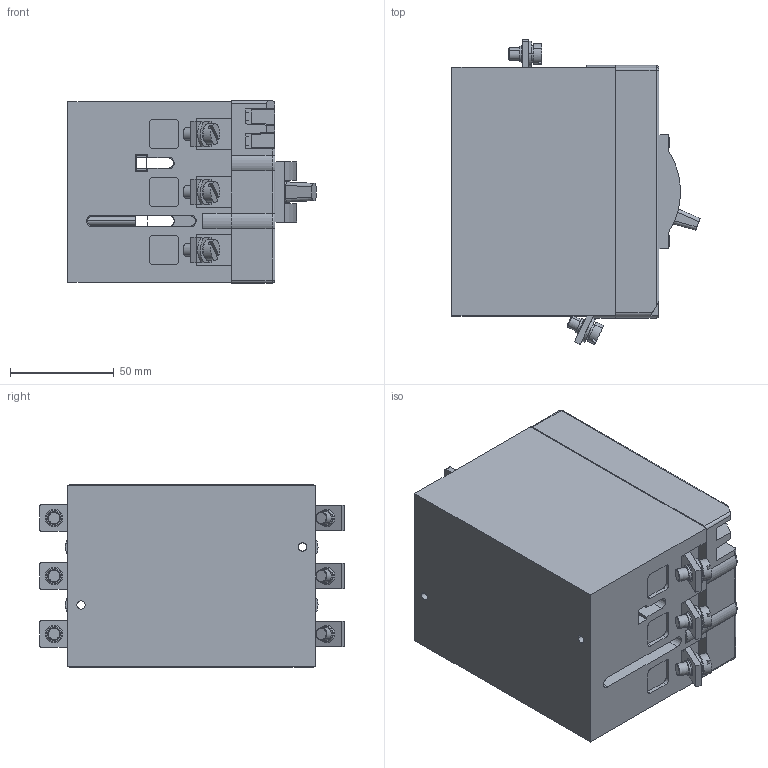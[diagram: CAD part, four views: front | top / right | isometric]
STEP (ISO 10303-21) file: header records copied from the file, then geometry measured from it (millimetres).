
FILE_DESCRIPTION (( 'STEP AP214' ), '1' );
FILE_NAME ('Àâòîìàòè÷åñêèé âûêëþ÷àòåëü ÂÀ21-3.STEP', '2013-12-18T10:51:12', ( 'www.PHILka.RU' ), ( 'WareZ Provider ' ), 'SwSTEP 2.0', 'SolidWorks 2007', '' );
FILE_SCHEMA (( 'AUTOMOTIVE_DESIGN' ));
Length unit declared in the file: millimetre
Products named in the file (1): Àâòîìàòè÷åñêèé âûêëþ÷àòåëü ÂÀ21-3
Bounding box: 119.82 x 147.25 x 88 mm (x, y, z)
Surface area: 96094 mm2 (no closed solid volume)
Topology: 0 solids, 36 shells, 422 faces, 1287 edges, 897 vertices
Faces by surface type: plane 215, cylinder 157, cone 21, torus 18, bspline 8, sphere 3
Entity records: 19495 total; most frequent: CARTESIAN_POINT 3230, DIRECTION 2526, ORIENTED_EDGE 2157, EDGE_CURVE 1280, VERTEX_POINT 897, AXIS2_PLACEMENT_3D 885, VECTOR 756, LINE 756
